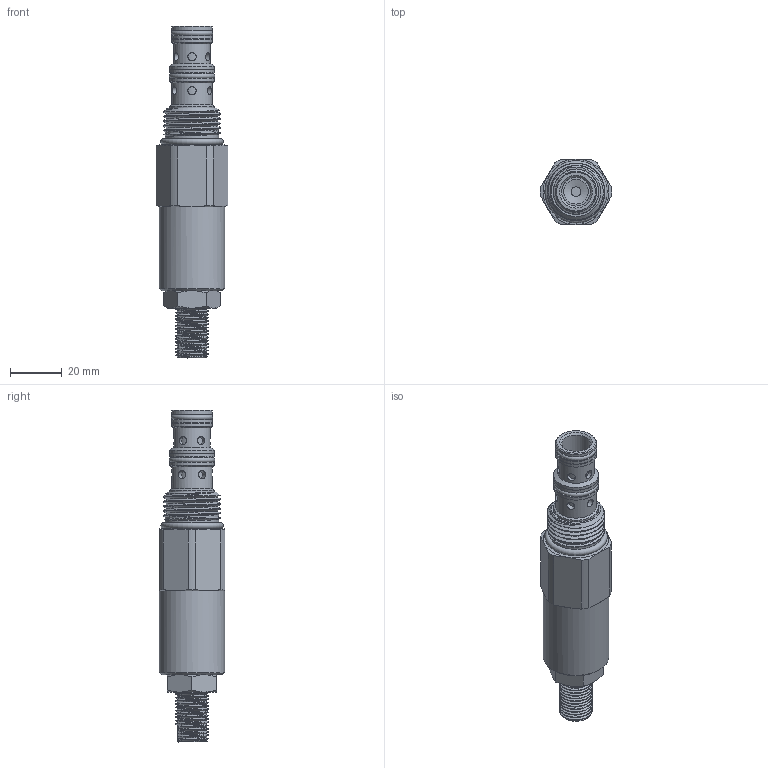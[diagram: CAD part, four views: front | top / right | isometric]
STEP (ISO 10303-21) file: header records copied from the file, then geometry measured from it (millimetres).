
FILE_DESCRIPTION(/* description */ ('DF-FCQ-00-2-05'),/* implementation_level */ '2;1');
FILE_NAME(/* name */ 'R:\Solids\Valve Solids exterior\Solids (.STEP)\DFFCQ00-3D Full.stp',/* time_stamp */ '2023-11-13T14:08:24-06:00',/* author */ ('jared'),/* organization */ (''),/* preprocessor_version */ 'ST-DEVELOPER v17',/* originating_system */ 'Autodesk Inventor 2019',/* authorisation */ '');
FILE_SCHEMA (('AUTOMOTIVE_DESIGN { 1 0 10303 214 3 1 1 }'));
Length unit declared in the file: inch
Products named in the file (1): 85002368
Bounding box: 27.74 x 25.4 x 128.37 mm (x, y, z)
Volume: 43683.6 mm3; surface area: 12145.8 mm2
Topology: 1 solids, 1 shells, 198 faces, 526 edges, 355 vertices
Faces by surface type: cylinder 74, plane 53, cone 38, bspline 28, torus 5
Full cylindrical faces by diameter (mm): 3.175 x12, 6.35 x1, 11.09 x1, 11.11 x1, 12.7 x9, 12.992 x3, 14.224 x1, 14.592 x3, 15.684 x1, 15.748 x1, 15.773 x2, 17.285 x1, 17.323 x1, 17.374 x2, 20.701 x3, 22.225 x4, 25.4 x1
Entity records: 16671 total; most frequent: CARTESIAN_POINT 11958, ORIENTED_EDGE 1050, DIRECTION 766, EDGE_CURVE 525, VERTEX_POINT 355, AXIS2_PLACEMENT_3D 326, EDGE_LOOP 227, B_SPLINE_CURVE_WITH_KNOTS 205
